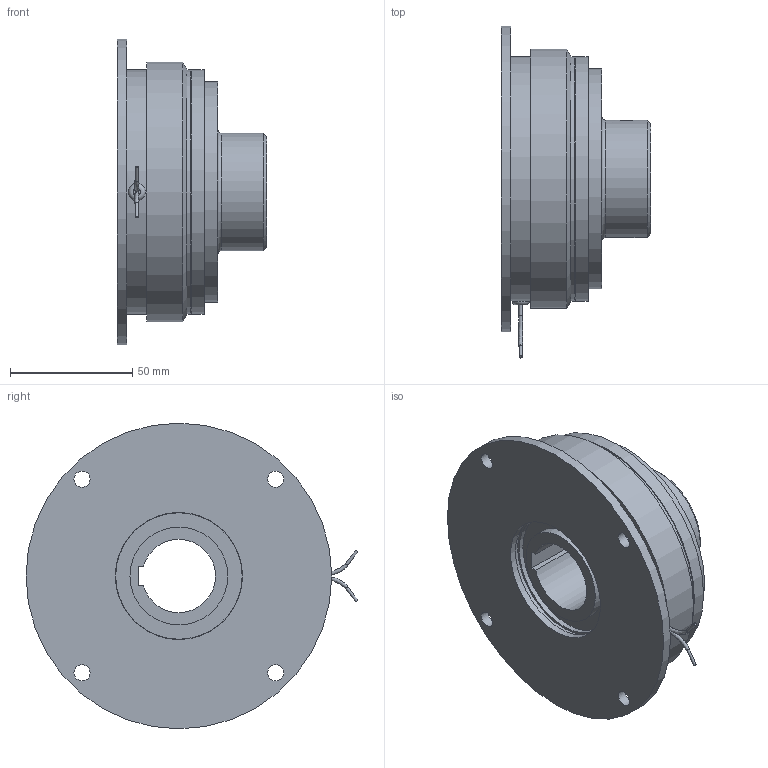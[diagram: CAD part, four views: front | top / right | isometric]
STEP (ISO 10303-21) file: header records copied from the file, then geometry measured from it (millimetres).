
FILE_DESCRIPTION(/* description */ (''),/* implementation_level */ '2;1');
FILE_NAME(/* name */ 'X:\INVENTOR\DISEGNI\08_Freni_Friz_Elettmag_Monodisco\08_20 ESAL\08_20_100_02 ESAL100_ME\08_20_100_02 ESAL100_ME - F30@STEP.stp',/* time_stamp */ '2017-09-11T14:50:22+02:00',/* author */ ('stefano'),/* organization */ (''),/* preprocessor_version */ 'ST-DEVELOPER v16.1',/* originating_system */ 'Autodesk Inventor 2016',/* authorisation */ '');
FILE_SCHEMA (('CONFIG_CONTROL_DESIGN'));
Length unit declared in the file: millimetre
Products named in the file (1): 08_20_100_02 ESAL100_ME_Substitute_1 - F30
Bounding box: 61.2 x 135.72 x 125 mm (x, y, z)
Volume: 305660.1 mm3; surface area: 92573.2 mm2
Topology: 3 solids, 3 shells, 176 faces, 386 edges, 255 vertices
Faces by surface type: cylinder 79, plane 76, cone 17, bspline 2, torus 2
Full cylindrical faces by diameter (mm): 1.154 x2, 1.5 x2, 2.5 x3, 4.134 x3, 5.2 x3, 6.6 x4, 6.647 x1, 7.5 x3, 9.43 x3, 11.5 x6, 40 x1, 44 x1, 48 x1, 51.7 x1, 52 x4, 53.8 x1, 62 x1, 67 x1, 90 x1, 91 x1, 100 x3, 100.2 x1, 106 x1, 125 x1
Entity records: 4786 total; most frequent: CARTESIAN_POINT 954, DIRECTION 793, ORIENTED_EDGE 588, AXIS2_PLACEMENT_3D 354, EDGE_LOOP 305, EDGE_CURVE 289, VERTEX_POINT 225, CIRCLE 178
